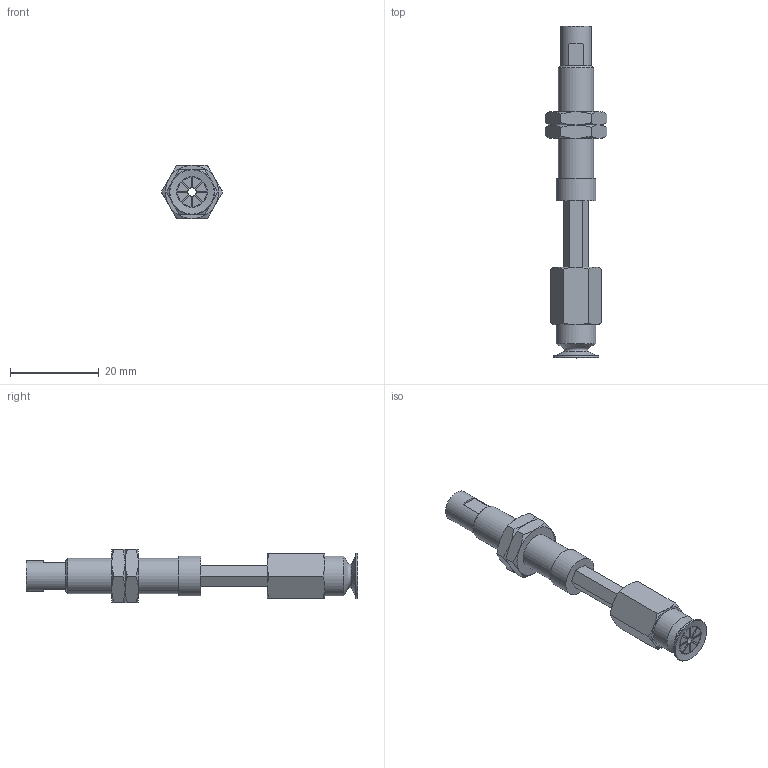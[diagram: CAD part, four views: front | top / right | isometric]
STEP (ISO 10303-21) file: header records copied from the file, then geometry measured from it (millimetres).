
FILE_DESCRIPTION(('STEP AP203'),'1');
FILE_NAME('.stp','2025-08-12T08:06:32',(' '),(' '),'Spatial InterOp 3D',' ',' ');
FILE_SCHEMA(('CONFIG_CONTROL_DESIGN'));
Length unit declared in the file: millimetre
Products named in the file (6): BNABPATH-10B-15-※; NAPATH-10A-15--F; Nut-10A-S; BPAG-10B-※; ADAPTER; NAPATH-10A-15--M
Assembly tree (6 placements, depth 2):
  BNABPATH-10B-15-※
    NAPATH-10A-15--F
    Nut-10A-S  x2
    BPAG-10B-※
    ADAPTER
    NAPATH-10A-15--M
Bounding box: 13.86 x 75 x 12 mm (x, y, z)
Volume: 3957 mm3; surface area: 4745.2 mm2
Topology: 6 solids, 6 shells, 157 faces, 364 edges, 226 vertices
Faces by surface type: plane 77, cone 46, cylinder 23, torus 11
Full cylindrical faces by diameter (mm): 2 x3, 4 x2, 4.134 x1, 6 x2, 7 x2, 7.188 x2, 8 x1, 9 x2
Entity records: 4098 total; most frequent: CARTESIAN_POINT 893, DIRECTION 612, ORIENTED_EDGE 548, EDGE_CURVE 274, AXIS2_PLACEMENT_3D 245, VERTEX_POINT 190, EDGE_LOOP 184, FACE_OUTER_BOUND 159
